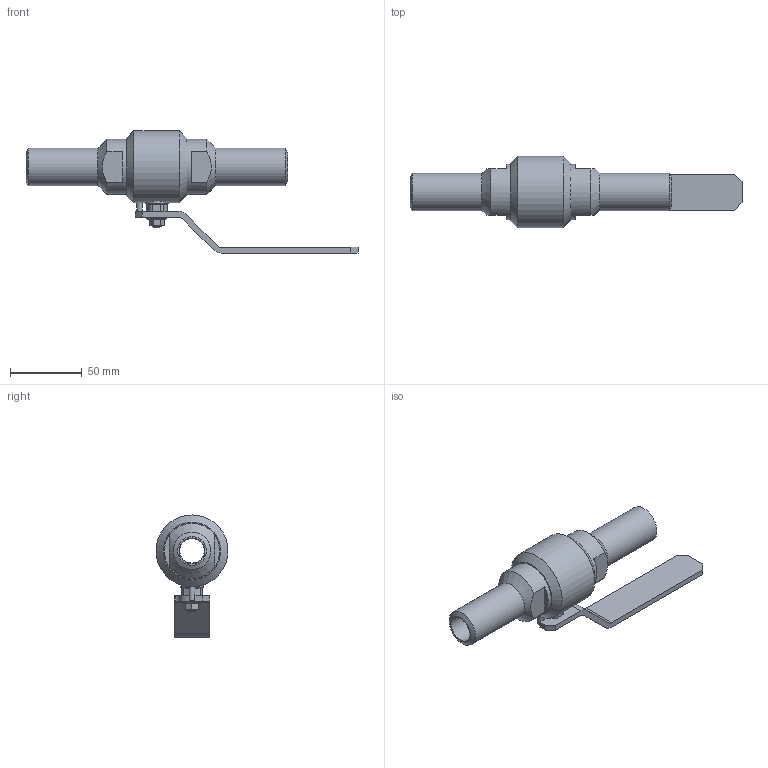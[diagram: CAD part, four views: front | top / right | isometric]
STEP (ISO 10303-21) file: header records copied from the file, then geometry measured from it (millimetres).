
FILE_DESCRIPTION(('STEP AP203'), '1');
FILE_NAME('ZARD 020.025.40.P.stp', '2013-12-05T11:39:07', ('Øèøêî'), ('Ýíåðïðåä ßðäîñ'), 'ASCON STEP Converter 1.3', 'Kompas 3D', '');
FILE_SCHEMA(('CONFIG_CONTROL_DESIGN','SUPPORT_RESOURCE_SCHEMA'));
Length unit declared in the file: millimetre
Products named in the file (1): 170
Bounding box: 231 x 50 x 85 mm (x, y, z)
Volume: 135691.4 mm3; surface area: 43846.6 mm2
Topology: 1 solids, 3 shells, 151 faces, 358 edges, 218 vertices
Faces by surface type: plane 88, cylinder 36, cone 26, bspline 1
Full cylindrical faces by diameter (mm): 4 x2, 6 x2, 8.673 x1, 9 x1, 10 x1, 10.1 x1, 14.2 x1, 15.8 x1, 16 x3, 17 x2, 18 x2, 26 x2, 31.4 x1, 38.5 x2, 50 x1
Entity records: 5767 total; most frequent: CARTESIAN_POINT 2146, DIRECTION 763, ORIENTED_EDGE 714, EDGE_CURVE 357, AXIS2_PLACEMENT_3D 284, VERTEX_POINT 218, LINE 195, VECTOR 195
